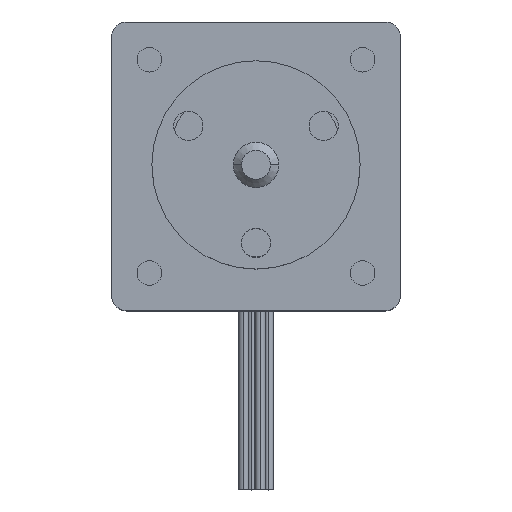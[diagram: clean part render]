
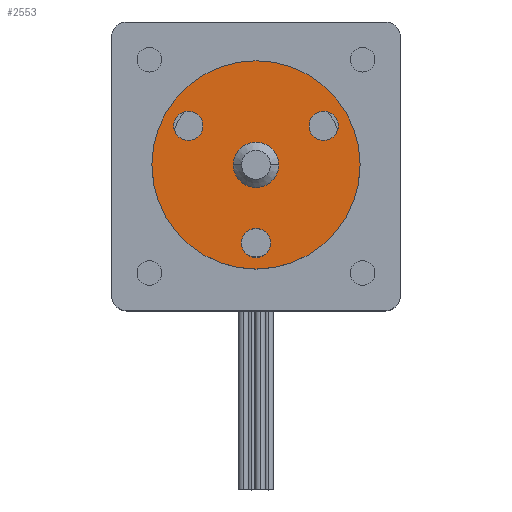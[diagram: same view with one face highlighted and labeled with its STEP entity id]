
A CAD part, top view. The second image highlights one B-rep face of the part: STEP entity #2553.
In plain terms, the highlighted planar face has unit normal (0, 0, 1).
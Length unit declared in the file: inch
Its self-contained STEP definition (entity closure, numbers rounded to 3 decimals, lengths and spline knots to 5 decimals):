
#25 = AXIS2_PLACEMENT_3D ( 'NONE', #1067, #1758, #380 ) ;
#54 = CIRCLE ( 'NONE', #1329, 0.5 ) ;
#59 = CARTESIAN_POINT ( 'NONE',  ( -0.5, 0., 0. ) ) ;
#76 = AXIS2_PLACEMENT_3D ( 'NONE', #92, #2689, #2974 ) ;
#91 = EDGE_LOOP ( 'NONE', ( #739, #1793 ) ) ;
#92 = CARTESIAN_POINT ( 'NONE',  ( 0., 0., 0. ) ) ;
#104 = EDGE_CURVE ( 'NONE', #1433, #1639, #1350, .T. ) ;
#110 = CARTESIAN_POINT ( 'NONE',  ( -0.07008, -0.375, 0. ) ) ;
#111 = CARTESIAN_POINT ( 'NONE',  ( 0.109, 0., 0. ) ) ;
#114 = VERTEX_POINT ( 'NONE', #59 ) ;
#136 = DIRECTION ( 'NONE',  ( 0., 0., 1. ) ) ;
#144 = AXIS2_PLACEMENT_3D ( 'NONE', #2286, #136, #2137 ) ;
#169 = CARTESIAN_POINT ( 'NONE',  ( -0.39484, 0.1875, 0. ) ) ;
#195 = EDGE_CURVE ( 'NONE', #901, #1190, #3030, .T. ) ;
#206 = DIRECTION ( 'NONE',  ( 0., 0., 1. ) ) ;
#245 = PLANE ( 'NONE',  #1736 ) ;
#254 = EDGE_CURVE ( 'NONE', #114, #1515, #1352, .T. ) ;
#272 = AXIS2_PLACEMENT_3D ( 'NONE', #1210, #1264, #994 ) ;
#380 = DIRECTION ( 'NONE',  ( 1., 0., 0. ) ) ;
#412 = EDGE_CURVE ( 'NONE', #1670, #1694, #2020, .T. ) ;
#439 = AXIS2_PLACEMENT_3D ( 'NONE', #677, #721, #1437 ) ;
#461 = EDGE_LOOP ( 'NONE', ( #2532, #1697 ) ) ;
#488 = DIRECTION ( 'NONE',  ( 0., 0., -1. ) ) ;
#513 = ORIENTED_EDGE ( 'NONE', *, *, #104, .F. ) ;
#516 = FACE_OUTER_BOUND ( 'NONE', #1841, .T. ) ;
#612 = ORIENTED_EDGE ( 'NONE', *, *, #1378, .F. ) ;
#618 = AXIS2_PLACEMENT_3D ( 'NONE', #1337, #841, #1283 ) ;
#677 = CARTESIAN_POINT ( 'NONE',  ( 0.32476, 0.1875, 0. ) ) ;
#686 = DIRECTION ( 'NONE',  ( 1., 0., 0. ) ) ;
#721 = DIRECTION ( 'NONE',  ( 0., 0., 1. ) ) ;
#739 = ORIENTED_EDGE ( 'NONE', *, *, #412, .F. ) ;
#777 = EDGE_LOOP ( 'NONE', ( #2477, #612 ) ) ;
#841 = DIRECTION ( 'NONE',  ( 0., 0., 1. ) ) ;
#898 = EDGE_CURVE ( 'NONE', #1959, #2402, #2703, .T. ) ;
#901 = VERTEX_POINT ( 'NONE', #111 ) ;
#976 = CIRCLE ( 'NONE', #2178, 0.07008 ) ;
#994 = DIRECTION ( 'NONE',  ( 1., 0., 0. ) ) ;
#1067 = CARTESIAN_POINT ( 'NONE',  ( 0., 0., 0. ) ) ;
#1142 = DIRECTION ( 'NONE',  ( 1., 0., 0. ) ) ;
#1168 = DIRECTION ( 'NONE',  ( 1., 0., 0. ) ) ;
#1190 = VERTEX_POINT ( 'NONE', #2454 ) ;
#1210 = CARTESIAN_POINT ( 'NONE',  ( 0.32476, 0.1875, 0. ) ) ;
#1264 = DIRECTION ( 'NONE',  ( 0., 0., 1. ) ) ;
#1283 = DIRECTION ( 'NONE',  ( 1., 0., 0. ) ) ;
#1329 = AXIS2_PLACEMENT_3D ( 'NONE', #2329, #1796, #1142 ) ;
#1337 = CARTESIAN_POINT ( 'NONE',  ( 0., -0.375, 0. ) ) ;
#1348 = CARTESIAN_POINT ( 'NONE',  ( 0.25468, 0.1875, 0. ) ) ;
#1350 = CIRCLE ( 'NONE', #272, 0.07008 ) ;
#1352 = CIRCLE ( 'NONE', #25, 0.5 ) ;
#1374 = CIRCLE ( 'NONE', #144, 0.109 ) ;
#1378 = EDGE_CURVE ( 'NONE', #2402, #1959, #976, .T. ) ;
#1410 = CARTESIAN_POINT ( 'NONE',  ( 0., 0., 0. ) ) ;
#1433 = VERTEX_POINT ( 'NONE', #1964 ) ;
#1437 = DIRECTION ( 'NONE',  ( 1., 0., 0. ) ) ;
#1515 = VERTEX_POINT ( 'NONE', #2978 ) ;
#1603 = EDGE_CURVE ( 'NONE', #1190, #901, #1374, .T. ) ;
#1639 = VERTEX_POINT ( 'NONE', #1348 ) ;
#1670 = VERTEX_POINT ( 'NONE', #2820 ) ;
#1694 = VERTEX_POINT ( 'NONE', #169 ) ;
#1697 = ORIENTED_EDGE ( 'NONE', *, *, #1603, .F. ) ;
#1727 = DIRECTION ( 'NONE',  ( 0., 0., 1. ) ) ;
#1736 = AXIS2_PLACEMENT_3D ( 'NONE', #1410, #488, #2628 ) ;
#1758 = DIRECTION ( 'NONE',  ( 0., 0., 1. ) ) ;
#1793 = ORIENTED_EDGE ( 'NONE', *, *, #2232, .F. ) ;
#1796 = DIRECTION ( 'NONE',  ( 0., 0., 1. ) ) ;
#1841 = EDGE_LOOP ( 'NONE', ( #2155, #2958 ) ) ;
#1884 = CARTESIAN_POINT ( 'NONE',  ( 0.07008, -0.375, 0. ) ) ;
#1923 = EDGE_LOOP ( 'NONE', ( #513, #2793 ) ) ;
#1924 = DIRECTION ( 'NONE',  ( 1., 0., 0. ) ) ;
#1959 = VERTEX_POINT ( 'NONE', #1884 ) ;
#1964 = CARTESIAN_POINT ( 'NONE',  ( 0.39484, 0.1875, 0. ) ) ;
#2020 = CIRCLE ( 'NONE', #2064, 0.07008 ) ;
#2039 = CIRCLE ( 'NONE', #2537, 0.07008 ) ;
#2064 = AXIS2_PLACEMENT_3D ( 'NONE', #2672, #1727, #1924 ) ;
#2119 = CARTESIAN_POINT ( 'NONE',  ( 0., -0.375, 0. ) ) ;
#2125 = FACE_BOUND ( 'NONE', #1923, .T. ) ;
#2137 = DIRECTION ( 'NONE',  ( 1., 0., 0. ) ) ;
#2155 = ORIENTED_EDGE ( 'NONE', *, *, #2480, .T. ) ;
#2178 = AXIS2_PLACEMENT_3D ( 'NONE', #2119, #3046, #1168 ) ;
#2232 = EDGE_CURVE ( 'NONE', #1694, #1670, #2039, .T. ) ;
#2286 = CARTESIAN_POINT ( 'NONE',  ( 0., 0., 0. ) ) ;
#2329 = CARTESIAN_POINT ( 'NONE',  ( 0., 0., 0. ) ) ;
#2402 = VERTEX_POINT ( 'NONE', #110 ) ;
#2454 = CARTESIAN_POINT ( 'NONE',  ( -0.109, 0., 0. ) ) ;
#2477 = ORIENTED_EDGE ( 'NONE', *, *, #898, .F. ) ;
#2480 = EDGE_CURVE ( 'NONE', #1515, #114, #54, .T. ) ;
#2532 = ORIENTED_EDGE ( 'NONE', *, *, #195, .F. ) ;
#2537 = AXIS2_PLACEMENT_3D ( 'NONE', #2539, #206, #686 ) ;
#2539 = CARTESIAN_POINT ( 'NONE',  ( -0.32476, 0.1875, 0. ) ) ;
#2553 = ADVANCED_FACE ( 'NONE', ( #2640, #2125, #2826, #3053, #516 ), #245, .F. ) ;
#2628 = DIRECTION ( 'NONE',  ( -1., 0., 0. ) ) ;
#2640 = FACE_BOUND ( 'NONE', #91, .T. ) ;
#2672 = CARTESIAN_POINT ( 'NONE',  ( -0.32476, 0.1875, 0. ) ) ;
#2689 = DIRECTION ( 'NONE',  ( 0., 0., 1. ) ) ;
#2703 = CIRCLE ( 'NONE', #618, 0.07008 ) ;
#2793 = ORIENTED_EDGE ( 'NONE', *, *, #2914, .F. ) ;
#2820 = CARTESIAN_POINT ( 'NONE',  ( -0.25468, 0.1875, 0. ) ) ;
#2826 = FACE_BOUND ( 'NONE', #777, .T. ) ;
#2914 = EDGE_CURVE ( 'NONE', #1639, #1433, #3012, .T. ) ;
#2958 = ORIENTED_EDGE ( 'NONE', *, *, #254, .T. ) ;
#2974 = DIRECTION ( 'NONE',  ( 1., 0., 0. ) ) ;
#2978 = CARTESIAN_POINT ( 'NONE',  ( 0.5, 0., 0. ) ) ;
#3012 = CIRCLE ( 'NONE', #439, 0.07008 ) ;
#3030 = CIRCLE ( 'NONE', #76, 0.109 ) ;
#3046 = DIRECTION ( 'NONE',  ( 0., 0., 1. ) ) ;
#3053 = FACE_BOUND ( 'NONE', #461, .T. ) ;
